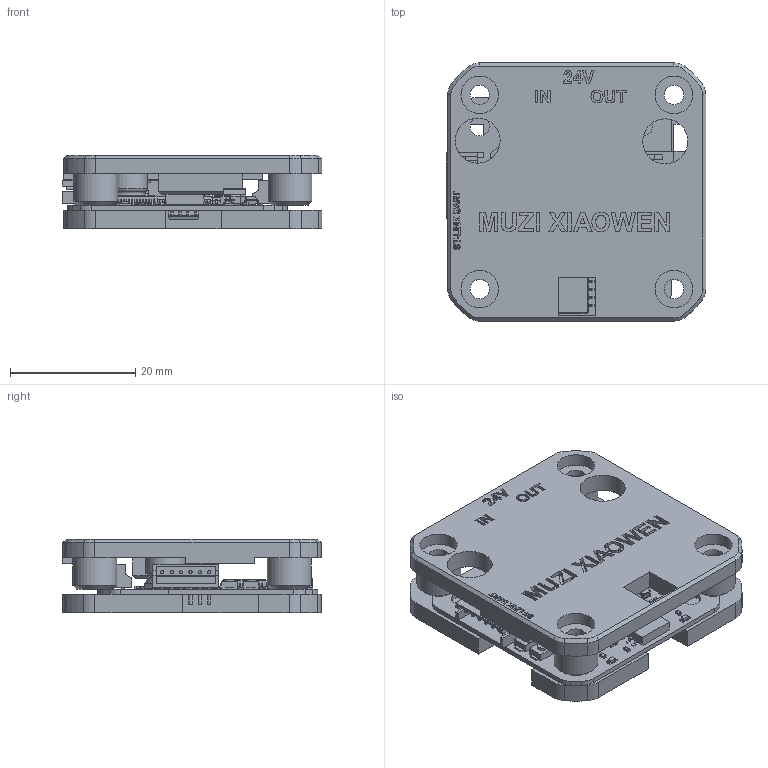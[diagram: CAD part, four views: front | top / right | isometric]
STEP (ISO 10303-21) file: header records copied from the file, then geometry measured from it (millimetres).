
FILE_DESCRIPTION(/* description */ (''),/* implementation_level */ '2;1');
FILE_NAME(/* name */ 'motor42-br-top.step',/* time_stamp */ '2023-12-04T18:22:35+08:00',/* author */ (''),/* organization */ (''),/* preprocessor_version */ 'ST-DEVELOPER v20',/* originating_system */ 'Autodesk Translation Framework v12.14.0.127',/* authorisation */ '');
FILE_SCHEMA (('AUTOMOTIVE_DESIGN { 1 0 10303 214 3 1 1 }'));
Products named in the file (152): mini8-cover; Motor-35; Board; Open CASCADE STEP translator 7.5 3.1.1; C27; P1; S1; c-1825140-1-o1-3d; U5; C11; A-CHIP_D6.3_L7.7__NORMAL_COATED-CASE_STRUCTURE; A-CHIP_D6.3_L7.7_ELEMENT; A-CHIP_D6.3_LEAD-; A-CHIP_D6.3_LEAD＋; A-CHIP_D6.3_TABLE; P3; P2; S6B-ZR; C36; C32; C31; C30; C29; U2; C5; U1; R22; R21; R20; C23; C28; R19; R18; LED2; R11; LED1; User Library-LED_0603_R; User Library-LED_0603_R_Pocket002; User Library-LED_0603_R_Pad004; User Library-LED_0603_R_Fillet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
Assembly tree (204 placements, depth 6):
  mini8-cover
    Motor-35
      Board
        Open CASCADE STEP translator 7.5 3.1.1
      C27
        6250501312
          Terminal
            Open CASCADE STEP translator 6.8 54.1.1
            Open CASCADE STEP translator 6.8 54.1.2
          Mid_Body
            Open CASCADE STEP translator 6.8 54.2.1
      P1
        S6B-ZR
      S1
        c-1825140-1-o1-3d
      U5
        SW3DPS-SO-8-DEFAULT
      C11
        A-CHIP_D6.3_L7.7__NORMAL_COATED-CASE_STRUCTURE
          A-CHIP_D6.3_L7.7_ELEMENT
          A-CHIP_D6.3_LEAD-
          A-CHIP_D6.3_LEAD＋
          A-CHIP_D6.3_TABLE
      P3
        S6B-ZR
      P2
        S6B-ZR
      C36
        6250500912
          Terminal (1)
            Open CASCADE STEP translator 6.8 54.1.1 (1)
            Open CASCADE STEP translator 6.8 54.1.2 (1)
          Mid_Body (1)
            Open CASCADE STEP translator 6.8 54.2.1 (1)
      C32
        (???)
      C31
        (???)
      C30
        (???)
      C29
        (???)
      U2
        SW3DPS-SO-8-DEFAULT
      C5
        6250502032
          Terminal (2)
            Open CASCADE STEP translator 6.8 54.1.1 (2)
            Open CASCADE STEP translator 6.8 54.1.2 (2)
          Mid_Body (2)
            Open CASCADE STEP translator 6.8 54.2.1 (2)
      U1
        SW3DPS-SO-8-DEFAULT
      R22
        6250499392
          Mid_Body (3)
          Terminal (3)  x2
            Open CASCADE STEP translator 6.8 20.2.1
          Mark
      R21
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Bounding box: 41.46 x 41.2 x 11.8 mm (x, y, z)
Volume: 10554.7 mm3; surface area: 13302.2 mm2
Topology: 221 solids, 224 shells, 5140 faces, 12633 edges, 7772 vertices
Faces by surface type: plane 3222, cylinder 1372, sphere 299, bspline 199, torus 32, cone 16
Full cylindrical faces by diameter (mm): 0.08 x2, 0.4 x1, 0.432 x4, 0.45 x4, 0.5 x37, 0.72 x18, 1 x4, 1.5 x2, 3.1 x12, 3.15 x4, 5 x1, 6 x4, 6.3 x2, 7 x4, 7.2 x2
Entity records: 91810 total; most frequent: CARTESIAN_POINT 19826, ORIENTED_EDGE 14109, DIRECTION 13986, EDGE_CURVE 7067, LINE 5294, VECTOR 5294, VERTEX_POINT 4504, AXIS2_PLACEMENT_3D 4346
